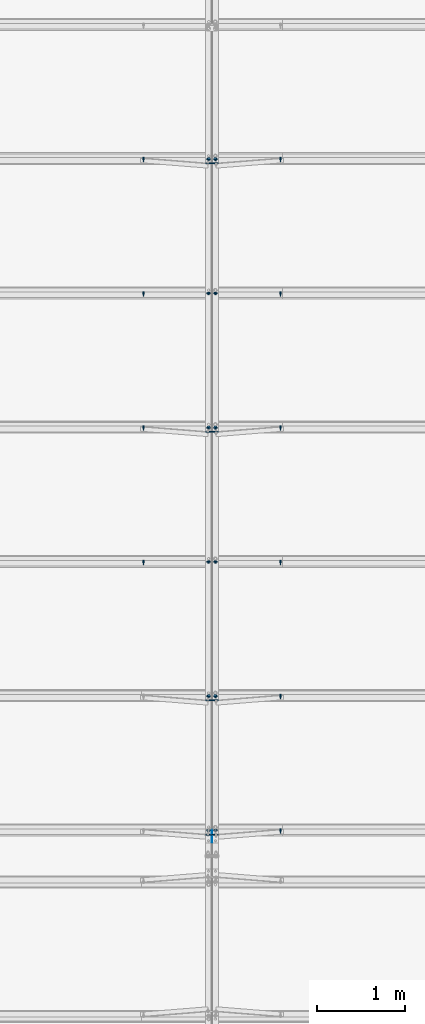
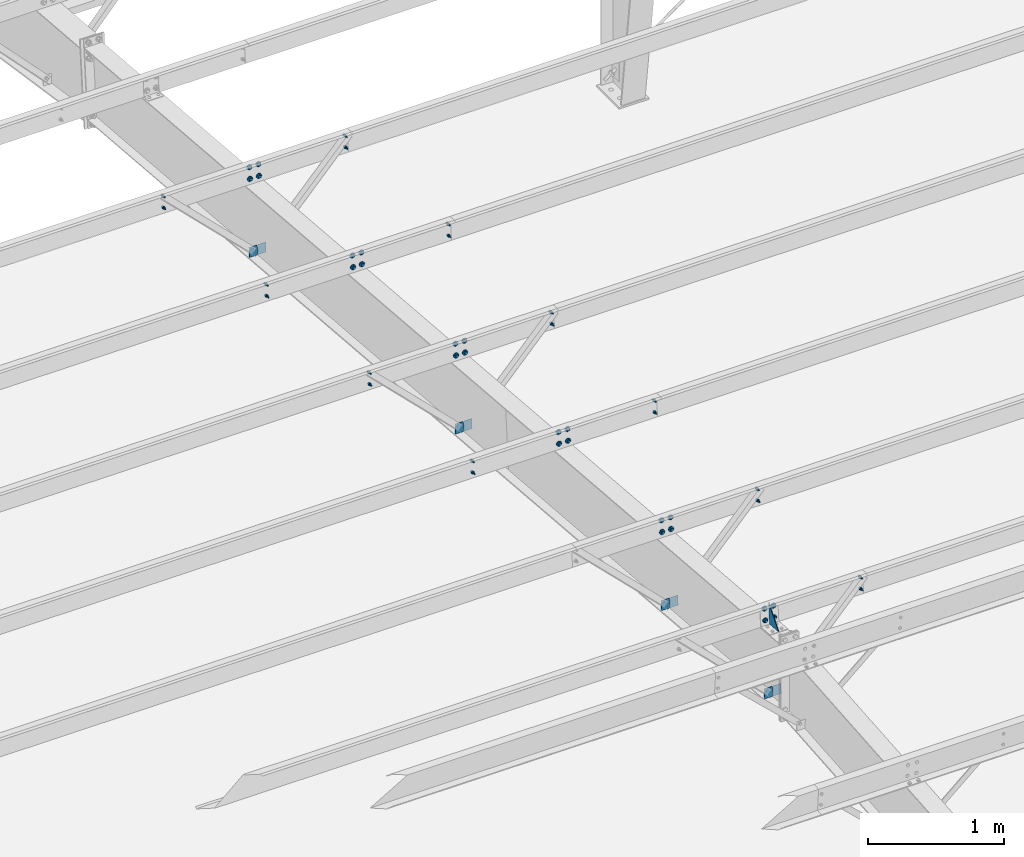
# One storey, part 94 of 185: 22 mechanical fasteners, 9 discrete accessories, 14 elements without a shape of their own.
"""IFC2X3 building model written with IfcOpenShell, lengths in millimetres."""

from ifc_helpers import new_model, si_unit, frame, origin_with_axes, origin_2d_with_axis, place, context, subcontext, project, spatial, polyline, rectangle, circle, outline, extrude, source, transform, mapped, material, type_object, element, aggregate, save


model = new_model("IFC2X3")

# Units and contexts
model_context = context("Model", 3, precision=1e-05, world=origin_with_axes())
body_context = subcontext(model_context, "Body", "Model", "MODEL_VIEW")
ifc_project = project(units=[si_unit("LENGTHUNIT", "METRE", prefix="MILLI"), si_unit("AREAUNIT", "SQUARE_METRE"), si_unit("VOLUMEUNIT", "CUBIC_METRE"), si_unit("MASSUNIT", "GRAM", prefix="KILO"), si_unit("TIMEUNIT", "SECOND"), si_unit("PLANEANGLEUNIT", "RADIAN"), si_unit("SOLIDANGLEUNIT", "STERADIAN"), si_unit("THERMODYNAMICTEMPERATUREUNIT", "DEGREE_CELSIUS"), si_unit("LUMINOUSINTENSITYUNIT", "LUMEN")], contexts=[model_context])

# Site, building, storey
site_placement = place(None, origin_with_axes())
site = spatial("IfcSite", under=ifc_project, at=site_placement, Name="Undefined", CompositionType="ELEMENT")
building_placement = place(site_placement, origin_with_axes())
building = spatial("IfcBuilding", under=site, at=building_placement, Name="Undefined", CompositionType="ELEMENT")
storey_placement = place(building_placement, origin_with_axes())
storey = spatial("IfcBuildingStorey", under=building, at=storey_placement, Name="Undefined", CompositionType="ELEMENT", Elevation=0.0)

# Assembly, mechanical fastener
assembly_1_placement = place(storey_placement, origin_with_axes())
assembly_1 = element("IfcElementAssembly", 1, at=assembly_1_placement, inside=storey, Name="Steel Assembly", AssemblyPlace="NOTDEFINED", PredefinedType="RIGID_FRAME")
ifc_material_1 = material(Name="Undefined")
discrete_accessory_type_1 = type_object("IfcDiscreteAccessoryType", Name="Bolt assembly")
shared_shape_1 = source(origin_with_axes(), body_context, "Body", "SweptSolid", [
    extrude(circle(Radius=7.14374971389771, at=origin_2d_with_axis()), frame((0.0, -1.59000001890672, 0.0), z_axis=(0.0, 1.0, 0.0), x_axis=(1.0, 0.0, 0.0)), (0.0, 0.0, 1.0), 3.3),
    extrude(circle(Radius=13.4937496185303, at=origin_2d_with_axis()), frame((0.0, -5.5587500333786, 0.0), z_axis=(0.0, 1.0, 0.0), x_axis=(1.0, 0.0, 0.0)), (0.0, 0.0, 1.0), 4.0),
    extrude(circle(Radius=22.2250003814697, at=origin_2d_with_axis()), frame((0.0, 1.5900000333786, 0.0), z_axis=(0.0, 1.0, 0.0), x_axis=(1.0, 0.0, 0.0)), (0.0, 0.0, 1.0), 7.9),
    extrude(outline(polyline([(12.8316099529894, 0.0), (6.4158049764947, 11.1125001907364), (-6.4158049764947, 11.1125001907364), (-12.8316099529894, 0.0), (-6.4158049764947, -11.1125001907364), (6.4158049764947, -11.1125001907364), (12.8316099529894, 0.0)])), frame((0.0, 9.5275000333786, 0.0), z_axis=(0.0, 1.0, 0.0), x_axis=(1.0, 0.0, 0.0)), (0.0, 0.0, 1.0), 12.3),
])
mechanical_fastener_1_placement = place(assembly_1_placement, frame((22440.9, 23895.20669004, 6720.75669347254), z_axis=(-1.0, 0.0, 0.0), x_axis=(0.0, -0.0830454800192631, -0.996545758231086)))
mechanical_fastener_1 = element("IfcMechanicalFastener", 2, at=mechanical_fastener_1_placement, type_object=discrete_accessory_type_1, material=ifc_material_1, Name="Bolt assembly", NominalDiameter=12.6999998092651, NominalLength=38.0999984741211, context=body_context, shape_type="MappedRepresentation", body=[
    mapped(shared_shape_1, transform((0.0, 0.0, 0.0))),
    mapped(shared_shape_1, transform((101.599998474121, 0.0, 0.0))),
])
aggregate(assembly_1, [mechanical_fastener_1])

assembly_2_placement = place(storey_placement, origin_with_axes())
assembly_2 = element("IfcElementAssembly", 3, at=assembly_2_placement, inside=storey, Name="Steel Assembly", AssemblyPlace="NOTDEFINED", PredefinedType="RIGID_FRAME")
mechanical_fastener_2_placement = place(assembly_2_placement, frame((22517.1, 23895.20669004, 6720.75669347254), z_axis=(-1.0, 0.0, 0.0), x_axis=(0.0, -0.0830454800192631, -0.996545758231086)))
mechanical_fastener_2 = element("IfcMechanicalFastener", 4, at=mechanical_fastener_2_placement, type_object=discrete_accessory_type_1, material=ifc_material_1, Name="Bolt assembly", NominalDiameter=12.6999998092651, NominalLength=38.0999984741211, context=body_context, shape_type="MappedRepresentation", body=[
    mapped(shared_shape_1, transform((0.0, 0.0, 0.0))),
    mapped(shared_shape_1, transform((101.599998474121, 0.0, 0.0))),
])

assembly_3_placement = place(storey_placement, origin_with_axes())
assembly_3 = element("IfcElementAssembly", 5, at=assembly_3_placement, inside=storey, Name="Steel Assembly", AssemblyPlace="NOTDEFINED", PredefinedType="RIGID_FRAME")
mechanical_fastener_3_placement = place(assembly_3_placement, frame((22440.9, 22376.4709544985, 6847.31800501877), z_axis=(-1.0, 0.0, 0.0), x_axis=(0.0, -0.0830454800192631, -0.996545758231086)))
mechanical_fastener_3 = element("IfcMechanicalFastener", 6, at=mechanical_fastener_3_placement, type_object=discrete_accessory_type_1, material=ifc_material_1, Name="Bolt assembly", NominalDiameter=12.6999998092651, NominalLength=38.0999984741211, context=body_context, shape_type="MappedRepresentation", body=[
    mapped(shared_shape_1, transform((0.0, 0.0, 0.0))),
    mapped(shared_shape_1, transform((101.599998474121, 0.0, 0.0))),
])
aggregate(assembly_3, [mechanical_fastener_3])

assembly_4_placement = place(storey_placement, origin_with_axes())
assembly_4 = element("IfcElementAssembly", 7, at=assembly_4_placement, inside=storey, Name="Steel Assembly", AssemblyPlace="NOTDEFINED", PredefinedType="RIGID_FRAME")
mechanical_fastener_4_placement = place(assembly_4_placement, frame((22517.1, 22376.4709544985, 6847.31800501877), z_axis=(-1.0, 0.0, 0.0), x_axis=(0.0, -0.0830454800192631, -0.996545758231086)))
mechanical_fastener_4 = element("IfcMechanicalFastener", 8, at=mechanical_fastener_4_placement, type_object=discrete_accessory_type_1, material=ifc_material_1, Name="Bolt assembly", NominalDiameter=12.6999998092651, NominalLength=38.0999984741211, context=body_context, shape_type="MappedRepresentation", body=[
    mapped(shared_shape_1, transform((0.0, 0.0, 0.0))),
    mapped(shared_shape_1, transform((101.599998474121, 0.0, 0.0))),
])

assembly_5_placement = place(storey_placement, origin_with_axes())
assembly_5 = element("IfcElementAssembly", 9, at=assembly_5_placement, inside=storey, Name="Steel Assembly", AssemblyPlace="NOTDEFINED", PredefinedType="RIGID_FRAME")
mechanical_fastener_5_placement = place(assembly_5_placement, frame((22440.9, 20857.735218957, 6973.87931656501), z_axis=(-1.0, 0.0, 0.0), x_axis=(0.0, -0.0830454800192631, -0.996545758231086)))
mechanical_fastener_5 = element("IfcMechanicalFastener", 10, at=mechanical_fastener_5_placement, type_object=discrete_accessory_type_1, material=ifc_material_1, Name="Bolt assembly", NominalDiameter=12.6999998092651, NominalLength=38.0999984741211, context=body_context, shape_type="MappedRepresentation", body=[
    mapped(shared_shape_1, transform((0.0, 0.0, 0.0))),
    mapped(shared_shape_1, transform((101.599998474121, 0.0, 0.0))),
])
aggregate(assembly_5, [mechanical_fastener_5])

assembly_6_placement = place(storey_placement, origin_with_axes())
assembly_6 = element("IfcElementAssembly", 11, at=assembly_6_placement, inside=storey, Name="Steel Assembly", AssemblyPlace="NOTDEFINED", PredefinedType="RIGID_FRAME")
mechanical_fastener_6_placement = place(assembly_6_placement, frame((22517.1, 20857.735218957, 6973.87931656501), z_axis=(-1.0, 0.0, 0.0), x_axis=(0.0, -0.0830454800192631, -0.996545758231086)))
mechanical_fastener_6 = element("IfcMechanicalFastener", 12, at=mechanical_fastener_6_placement, type_object=discrete_accessory_type_1, material=ifc_material_1, Name="Bolt assembly", NominalDiameter=12.6999998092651, NominalLength=38.0999984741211, context=body_context, shape_type="MappedRepresentation", body=[
    mapped(shared_shape_1, transform((0.0, 0.0, 0.0))),
    mapped(shared_shape_1, transform((101.599998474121, 0.0, 0.0))),
])

assembly_7_placement = place(storey_placement, origin_with_axes())
assembly_7 = element("IfcElementAssembly", 13, at=assembly_7_placement, inside=storey, Name="Steel Assembly", AssemblyPlace="NOTDEFINED", PredefinedType="RIGID_FRAME")
mechanical_fastener_7_placement = place(assembly_7_placement, frame((22440.9, 19338.9994834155, 7100.44062811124), z_axis=(-1.0, 0.0, 0.0), x_axis=(0.0, -0.0830454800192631, -0.996545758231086)))
mechanical_fastener_7 = element("IfcMechanicalFastener", 14, at=mechanical_fastener_7_placement, type_object=discrete_accessory_type_1, material=ifc_material_1, Name="Bolt assembly", NominalDiameter=12.6999998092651, NominalLength=38.0999984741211, context=body_context, shape_type="MappedRepresentation", body=[
    mapped(shared_shape_1, transform((0.0, 0.0, 0.0))),
    mapped(shared_shape_1, transform((101.599998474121, 0.0, 0.0))),
])
aggregate(assembly_7, [mechanical_fastener_7])

assembly_8_placement = place(storey_placement, origin_with_axes())
assembly_8 = element("IfcElementAssembly", 15, at=assembly_8_placement, inside=storey, Name="Steel Assembly", AssemblyPlace="NOTDEFINED", PredefinedType="RIGID_FRAME")
mechanical_fastener_8_placement = place(assembly_8_placement, frame((22517.1, 19338.9994834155, 7100.44062811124), z_axis=(-1.0, 0.0, 0.0), x_axis=(0.0, -0.0830454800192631, -0.996545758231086)))
mechanical_fastener_8 = element("IfcMechanicalFastener", 16, at=mechanical_fastener_8_placement, type_object=discrete_accessory_type_1, material=ifc_material_1, Name="Bolt assembly", NominalDiameter=12.6999998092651, NominalLength=38.0999984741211, context=body_context, shape_type="MappedRepresentation", body=[
    mapped(shared_shape_1, transform((0.0, 0.0, 0.0))),
    mapped(shared_shape_1, transform((101.599998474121, 0.0, 0.0))),
])

assembly_9_placement = place(storey_placement, origin_with_axes())
assembly_9 = element("IfcElementAssembly", 17, at=assembly_9_placement, inside=storey, Name="Steel Assembly", AssemblyPlace="NOTDEFINED", PredefinedType="RIGID_FRAME")
mechanical_fastener_9_placement = place(assembly_9_placement, frame((22440.9, 17820.2637478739, 7227.00193965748), z_axis=(-1.0, 0.0, 0.0), x_axis=(0.0, -0.0830454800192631, -0.996545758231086)))
mechanical_fastener_9 = element("IfcMechanicalFastener", 18, at=mechanical_fastener_9_placement, type_object=discrete_accessory_type_1, material=ifc_material_1, Name="Bolt assembly", NominalDiameter=12.6999998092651, NominalLength=38.0999984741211, context=body_context, shape_type="MappedRepresentation", body=[
    mapped(shared_shape_1, transform((0.0, 0.0, 0.0))),
    mapped(shared_shape_1, transform((101.599998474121, 0.0, 0.0))),
])
aggregate(assembly_9, [mechanical_fastener_9])

assembly_10_placement = place(storey_placement, origin_with_axes())
assembly_10 = element("IfcElementAssembly", 19, at=assembly_10_placement, inside=storey, Name="Steel Assembly", AssemblyPlace="NOTDEFINED", PredefinedType="RIGID_FRAME")
mechanical_fastener_10_placement = place(assembly_10_placement, frame((22517.1, 17820.2637478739, 7227.00193965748), z_axis=(-1.0, 0.0, 0.0), x_axis=(0.0, -0.0830454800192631, -0.996545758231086)))
mechanical_fastener_10 = element("IfcMechanicalFastener", 20, at=mechanical_fastener_10_placement, type_object=discrete_accessory_type_1, material=ifc_material_1, Name="Bolt assembly", NominalDiameter=12.6999998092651, NominalLength=38.0999984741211, context=body_context, shape_type="MappedRepresentation", body=[
    mapped(shared_shape_1, transform((0.0, 0.0, 0.0))),
    mapped(shared_shape_1, transform((101.599998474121, 0.0, 0.0))),
])

assembly_11_placement = place(storey_placement, origin_with_axes())
assembly_11 = element("IfcElementAssembly", 21, at=assembly_11_placement, inside=storey, Name="Steel Assembly", AssemblyPlace="NOTDEFINED", PredefinedType="RIGID_FRAME")
mechanical_fastener_11_placement = place(assembly_11_placement, frame((22440.9, 16301.5280123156, 7353.56325121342), z_axis=(-1.0, 0.0, 0.0), x_axis=(0.0, -0.0830454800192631, -0.996545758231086)))
mechanical_fastener_11 = element("IfcMechanicalFastener", 22, at=mechanical_fastener_11_placement, type_object=discrete_accessory_type_1, material=ifc_material_1, Name="Bolt assembly", NominalDiameter=12.6999998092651, NominalLength=38.0999984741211, context=body_context, shape_type="MappedRepresentation", body=[
    mapped(shared_shape_1, transform((0.0, 0.0, 0.0))),
    mapped(shared_shape_1, transform((101.599998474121, 0.0, 0.0))),
])
aggregate(assembly_11, [mechanical_fastener_11])

assembly_12_placement = place(storey_placement, origin_with_axes())
assembly_12 = element("IfcElementAssembly", 23, at=assembly_12_placement, inside=storey, Name="Steel Assembly", AssemblyPlace="NOTDEFINED", PredefinedType="RIGID_FRAME")
mechanical_fastener_12_placement = place(assembly_12_placement, frame((22517.1, 16301.5280123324, 7353.56325120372), z_axis=(-1.0, 0.0, 0.0), x_axis=(0.0, -0.0830454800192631, -0.996545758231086)))
mechanical_fastener_12 = element("IfcMechanicalFastener", 24, at=mechanical_fastener_12_placement, type_object=discrete_accessory_type_1, material=ifc_material_1, Name="Bolt assembly", NominalDiameter=12.6999998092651, NominalLength=38.0999984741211, context=body_context, shape_type="MappedRepresentation", body=[
    mapped(shared_shape_1, transform((0.0, 0.0, 0.0))),
    mapped(shared_shape_1, transform((101.599998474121, 0.0, 0.0))),
])

# Assembly, discrete accessory
assembly_13_placement = place(storey_placement, origin_with_axes())
assembly_13 = element("IfcElementAssembly", 25, at=assembly_13_placement, inside=storey, Name="Steel Assembly", AssemblyPlace="NOTDEFINED", PredefinedType="RIGID_FRAME")
ifc_material_2 = material(Name="STEEL/55")
discrete_accessory_type_2 = type_object("IfcDiscreteAccessoryType", Name="PLATE")
discrete_accessory_1_placement = place(assembly_13_placement, frame((22479.0, 16150.181777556, 7219.61919675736), z_axis=(1.0, 0.0, 0.0), x_axis=(0.0, 0.996545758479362, -0.0830454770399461)))
discrete_accessory_1 = element("IfcDiscreteAccessory", 26, at=discrete_accessory_1_placement, type_object=discrete_accessory_type_2, material=ifc_material_2, Name="PLATE", ObjectType="FL1/4\"X5 1/4\"", context=body_context, shape_type="SweptSolid", body=[
    extrude(outline(polyline([(0.0, 0.0), (133.350006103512, 3.70164343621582e-10), (133.350006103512, 190.500000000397), (0.0, 0.0)])), frame((0.0, 0.0, -3.175), z_axis=(0.0, 0.0, 1.0), x_axis=(1.0, 0.0, 0.0)), (0.0, 0.0, 1.0), 6.4),
])
aggregate(assembly_13, [discrete_accessory_1])

# Assembly, discrete accessories
assembly_14_placement = place(storey_placement, origin_with_axes())
assembly_14 = element("IfcElementAssembly", 27, at=assembly_14_placement, inside=storey, Name="Steel Assembly", AssemblyPlace="NOTDEFINED", PredefinedType="RIGID_FRAME")
discrete_accessory_type_3 = type_object("IfcDiscreteAccessoryType", Name="FLANGE BRACE FLIP")
discrete_accessory_2_placement = place(assembly_14_placement, frame((22477.29185, 23836.5274434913, 5996.03869125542), z_axis=(0.0, 0.0830454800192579, 0.996545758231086), x_axis=(-1.0, 0.0, 0.0)))
discrete_accessory_2 = element("IfcDiscreteAccessory", 28, at=discrete_accessory_2_placement, type_object=discrete_accessory_type_3, material=ifc_material_2, Name="FLANGE BRACE FLIP", ObjectType="PL1/8\"X2 3/4\"", context=body_context, shape_type="SweptSolid", body=[
    extrude(rectangle(XDim=3.416, YDim=85.725, at=origin_2d_with_axis()), frame((69.8499999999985, 0.0, 0.0), z_axis=(-1.0, 0.0, 0.0), x_axis=(0.0, -1.0, 0.0)), (0.0, 0.0, 1.0), 69.8),
])
discrete_accessory_3_placement = place(assembly_14_placement, frame((22480.70815, 23836.5274434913, 5996.03869125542), z_axis=(0.0, 0.0830454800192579, 0.996545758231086), x_axis=(1.0, 0.0, 0.0)))
discrete_accessory_3 = element("IfcDiscreteAccessory", 29, at=discrete_accessory_3_placement, type_object=discrete_accessory_type_3, material=ifc_material_2, Name="FLANGE BRACE FLIP", ObjectType="PL1/8\"X2 3/4\"", context=body_context, shape_type="SweptSolid", body=[
    extrude(rectangle(XDim=3.416, YDim=85.725, at=origin_2d_with_axis()), frame((69.8499999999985, 0.0, 0.0), z_axis=(-1.0, 0.0, 0.0), x_axis=(0.0, -1.0, 0.0)), (0.0, 0.0, 1.0), 69.8),
])
discrete_accessory_4_placement = place(assembly_14_placement, frame((22477.29185, 16242.8487656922, 6628.84524772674), z_axis=(0.0, 0.0830454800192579, 0.996545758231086), x_axis=(-1.0, 0.0, 0.0)))
discrete_accessory_4 = element("IfcDiscreteAccessory", 30, at=discrete_accessory_4_placement, type_object=discrete_accessory_type_3, material=ifc_material_2, Name="FLANGE BRACE FLIP", ObjectType="PL1/8\"X2 3/4\"", context=body_context, shape_type="SweptSolid", body=[
    extrude(rectangle(XDim=3.416, YDim=85.725, at=origin_2d_with_axis()), frame((69.8499999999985, 0.0, 0.0), z_axis=(-1.0, 0.0, 0.0), x_axis=(0.0, -1.0, 0.0)), (0.0, 0.0, 1.0), 69.8),
])
discrete_accessory_5_placement = place(assembly_14_placement, frame((22480.70815, 16242.8487656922, 6628.84524772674), z_axis=(0.0, 0.0830454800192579, 0.996545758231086), x_axis=(1.0, 0.0, 0.0)))
discrete_accessory_5 = element("IfcDiscreteAccessory", 31, at=discrete_accessory_5_placement, type_object=discrete_accessory_type_3, material=ifc_material_2, Name="FLANGE BRACE FLIP", ObjectType="PL1/8\"X2 3/4\"", context=body_context, shape_type="SweptSolid", body=[
    extrude(rectangle(XDim=3.416, YDim=85.725, at=origin_2d_with_axis()), frame((69.8499999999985, 0.0, 0.0), z_axis=(-1.0, 0.0, 0.0), x_axis=(0.0, -1.0, 0.0)), (0.0, 0.0, 1.0), 69.8),
])
discrete_accessory_6_placement = place(assembly_14_placement, frame((22477.29185, 17761.584501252, 6502.28393643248), z_axis=(0.0, 0.0830454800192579, 0.996545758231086), x_axis=(-1.0, 0.0, 0.0)))
discrete_accessory_6 = element("IfcDiscreteAccessory", 32, at=discrete_accessory_6_placement, type_object=discrete_accessory_type_3, material=ifc_material_2, Name="FLANGE BRACE FLIP", ObjectType="PL1/8\"X2 3/4\"", context=body_context, shape_type="SweptSolid", body=[
    extrude(rectangle(XDim=3.416, YDim=85.725, at=origin_2d_with_axis()), frame((69.8499999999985, 0.0, 0.0), z_axis=(-1.0, 0.0, 0.0), x_axis=(0.0, -1.0, 0.0)), (0.0, 0.0, 1.0), 69.8),
])
discrete_accessory_7_placement = place(assembly_14_placement, frame((22480.70815, 17761.584501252, 6502.28393643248), z_axis=(0.0, 0.0830454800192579, 0.996545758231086), x_axis=(1.0, 0.0, 0.0)))
discrete_accessory_7 = element("IfcDiscreteAccessory", 33, at=discrete_accessory_7_placement, type_object=discrete_accessory_type_3, material=ifc_material_2, Name="FLANGE BRACE FLIP", ObjectType="PL1/8\"X2 3/4\"", context=body_context, shape_type="SweptSolid", body=[
    extrude(rectangle(XDim=3.416, YDim=85.725, at=origin_2d_with_axis()), frame((69.8499999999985, 0.0, 0.0), z_axis=(-1.0, 0.0, 0.0), x_axis=(0.0, -1.0, 0.0)), (0.0, 0.0, 1.0), 69.8),
])
discrete_accessory_8_placement = place(assembly_14_placement, frame((22477.29185, 20799.0559723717, 6249.16131384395), z_axis=(0.0, 0.0830454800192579, 0.996545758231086), x_axis=(-1.0, 0.0, 0.0)))
discrete_accessory_8 = element("IfcDiscreteAccessory", 34, at=discrete_accessory_8_placement, type_object=discrete_accessory_type_3, material=ifc_material_2, Name="FLANGE BRACE FLIP", ObjectType="PL1/8\"X2 3/4\"", context=body_context, shape_type="SweptSolid", body=[
    extrude(rectangle(XDim=3.416, YDim=85.725, at=origin_2d_with_axis()), frame((69.8499999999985, 0.0, 0.0), z_axis=(-1.0, 0.0, 0.0), x_axis=(0.0, -1.0, 0.0)), (0.0, 0.0, 1.0), 69.8),
])
discrete_accessory_9_placement = place(assembly_14_placement, frame((22480.70815, 20799.0559723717, 6249.16131384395), z_axis=(0.0, 0.0830454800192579, 0.996545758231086), x_axis=(1.0, 0.0, 0.0)))
discrete_accessory_9 = element("IfcDiscreteAccessory", 35, at=discrete_accessory_9_placement, type_object=discrete_accessory_type_3, material=ifc_material_2, Name="FLANGE BRACE FLIP", ObjectType="PL1/8\"X2 3/4\"", context=body_context, shape_type="SweptSolid", body=[
    extrude(rectangle(XDim=3.416, YDim=85.725, at=origin_2d_with_axis()), frame((69.8499999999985, 0.0, 0.0), z_axis=(-1.0, 0.0, 0.0), x_axis=(0.0, -1.0, 0.0)), (0.0, 0.0, 1.0), 69.8),
])
aggregate(assembly_14, [discrete_accessory_2, discrete_accessory_3, discrete_accessory_4, discrete_accessory_5, discrete_accessory_6, discrete_accessory_7, discrete_accessory_8, discrete_accessory_9])

# Mechanical fastener
shared_shape_2 = source(origin_with_axes(), body_context, "Body", "SweptSolid", [
    extrude(circle(Radius=7.14374971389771, at=origin_2d_with_axis()), frame((0.0, -1.4900000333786, 0.0), z_axis=(0.0, 1.0, 0.0), x_axis=(1.0, 0.0, 0.0)), (0.0, 0.0, 1.0), 3.2),
    extrude(circle(Radius=7.14374971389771, at=origin_2d_with_axis()), frame((0.0, -1.4900000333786, 0.0), z_axis=(0.0, 1.0, 0.0), x_axis=(1.0, 0.0, 0.0)), (0.0, 0.0, 1.0), 3.2),
    extrude(outline(polyline([(10.9985221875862, 0.0), (5.4992610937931, 9.52499961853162), (-5.4992610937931, 9.52499961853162), (-10.9985221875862, 0.0), (-5.4992610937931, -9.52499961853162), (5.4992610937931, -9.52499961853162), (10.9985221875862, 0.0)])), frame((0.0, -11.1149996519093, 0.0), z_axis=(0.0, 1.0, 0.0), x_axis=(1.0, 0.0, 0.0)), (0.0, 0.0, 1.0), 9.5),
    extrude(circle(Radius=6.34999990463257, at=origin_2d_with_axis()), frame((0.0, -1.59000001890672, 0.0), z_axis=(0.0, 1.0, 0.0), x_axis=(1.0, 0.0, 0.0)), (0.0, 0.0, 1.0), 38.1),
    extrude(outline(polyline([(12.8316099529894, 0.0), (6.4158049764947, 11.1125001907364), (-6.4158049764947, 11.1125001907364), (-12.8316099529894, 0.0), (-6.4158049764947, -11.1125001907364), (6.4158049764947, -11.1125001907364), (12.8316099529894, 0.0)])), frame((0.0, 1.5900000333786, 0.0), z_axis=(0.0, 1.0, 0.0), x_axis=(1.0, 0.0, 0.0)), (0.0, 0.0, 1.0), 12.3),
])
mechanical_fastener_13_placement = place(assembly_2_placement, frame((21704.3, 23895.2066900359, 6720.75669347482), z_axis=(-1.0, 0.0, 0.0), x_axis=(0.0, -0.0830454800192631, -0.996545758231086)))
mechanical_fastener_13 = element("IfcMechanicalFastener", 36, at=mechanical_fastener_13_placement, type_object=discrete_accessory_type_1, material=ifc_material_1, Name="Bolt assembly", NominalDiameter=12.6999998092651, NominalLength=38.0999984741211, context=body_context, shape_type="MappedRepresentation", body=[
    mapped(shared_shape_2, transform((0.0, 0.0, 0.0))),
    mapped(shared_shape_2, transform((101.599998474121, 0.0, 0.0))),
])

mechanical_fastener_14_placement = place(assembly_2_placement, frame((23253.7, 23895.2066900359, 6720.75669347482), z_axis=(-1.0, 0.0, 0.0), x_axis=(0.0, -0.0830454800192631, -0.996545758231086)))
mechanical_fastener_14 = element("IfcMechanicalFastener", 37, at=mechanical_fastener_14_placement, type_object=discrete_accessory_type_1, material=ifc_material_1, Name="Bolt assembly", NominalDiameter=12.6999998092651, NominalLength=38.0999984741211, context=body_context, shape_type="MappedRepresentation", body=[
    mapped(shared_shape_2, transform((0.0, 0.0, 0.0))),
    mapped(shared_shape_2, transform((101.599998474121, 0.0, 0.0))),
])

aggregate(assembly_2, [mechanical_fastener_13, mechanical_fastener_14, mechanical_fastener_2])

mechanical_fastener_15_placement = place(assembly_12_placement, frame((23253.7, 16301.5280123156, 7353.56325121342), z_axis=(-1.0, 0.0, 0.0), x_axis=(0.0, -0.0830454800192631, -0.996545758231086)))
mechanical_fastener_15 = element("IfcMechanicalFastener", 38, at=mechanical_fastener_15_placement, type_object=discrete_accessory_type_1, material=ifc_material_1, Name="Bolt assembly", NominalDiameter=12.6999998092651, NominalLength=38.0999984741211, context=body_context, shape_type="MappedRepresentation", body=[
    mapped(shared_shape_2, transform((0.0, 0.0, 0.0))),
    mapped(shared_shape_2, transform((101.599998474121, 0.0, 0.0))),
])

aggregate(assembly_12, [mechanical_fastener_15, mechanical_fastener_12])

mechanical_fastener_16_placement = place(assembly_10_placement, frame((23253.7, 17820.2637478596, 7227.0019396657), z_axis=(-1.0, 0.0, 0.0), x_axis=(0.0, -0.0830454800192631, -0.996545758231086)))
mechanical_fastener_16 = element("IfcMechanicalFastener", 39, at=mechanical_fastener_16_placement, type_object=discrete_accessory_type_1, material=ifc_material_1, Name="Bolt assembly", NominalDiameter=12.6999998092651, NominalLength=38.0999984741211, context=body_context, shape_type="MappedRepresentation", body=[
    mapped(shared_shape_2, transform((0.0, 0.0, 0.0))),
    mapped(shared_shape_2, transform((101.599998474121, 0.0, 0.0))),
])

aggregate(assembly_10, [mechanical_fastener_16, mechanical_fastener_10])

mechanical_fastener_17_placement = place(assembly_8_placement, frame((21704.3, 19338.9994834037, 7100.44062811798), z_axis=(-1.0, 0.0, 0.0), x_axis=(0.0, -0.0830454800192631, -0.996545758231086)))
mechanical_fastener_17 = element("IfcMechanicalFastener", 40, at=mechanical_fastener_17_placement, type_object=discrete_accessory_type_1, material=ifc_material_1, Name="Bolt assembly", NominalDiameter=12.6999998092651, NominalLength=38.0999984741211, context=body_context, shape_type="MappedRepresentation", body=[
    mapped(shared_shape_2, transform((0.0, 0.0, 0.0))),
    mapped(shared_shape_2, transform((101.599998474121, 0.0, 0.0))),
])

mechanical_fastener_18_placement = place(assembly_8_placement, frame((23253.7, 19338.9994834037, 7100.44062811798), z_axis=(-1.0, 0.0, 0.0), x_axis=(0.0, -0.0830454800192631, -0.996545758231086)))
mechanical_fastener_18 = element("IfcMechanicalFastener", 41, at=mechanical_fastener_18_placement, type_object=discrete_accessory_type_1, material=ifc_material_1, Name="Bolt assembly", NominalDiameter=12.6999998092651, NominalLength=38.0999984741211, context=body_context, shape_type="MappedRepresentation", body=[
    mapped(shared_shape_2, transform((0.0, 0.0, 0.0))),
    mapped(shared_shape_2, transform((101.599998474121, 0.0, 0.0))),
])

aggregate(assembly_8, [mechanical_fastener_17, mechanical_fastener_18, mechanical_fastener_8])

mechanical_fastener_19_placement = place(assembly_4_placement, frame((21704.3, 22376.4709544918, 6847.31800502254), z_axis=(-1.0, 0.0, 0.0), x_axis=(0.0, -0.0830454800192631, -0.996545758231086)))
mechanical_fastener_19 = element("IfcMechanicalFastener", 42, at=mechanical_fastener_19_placement, type_object=discrete_accessory_type_1, material=ifc_material_1, Name="Bolt assembly", NominalDiameter=12.6999998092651, NominalLength=38.0999984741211, context=body_context, shape_type="MappedRepresentation", body=[
    mapped(shared_shape_2, transform((0.0, 0.0, 0.0))),
    mapped(shared_shape_2, transform((101.599998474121, 0.0, 0.0))),
])

mechanical_fastener_20_placement = place(assembly_4_placement, frame((23253.7, 22376.4709544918, 6847.31800502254), z_axis=(-1.0, 0.0, 0.0), x_axis=(0.0, -0.0830454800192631, -0.996545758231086)))
mechanical_fastener_20 = element("IfcMechanicalFastener", 43, at=mechanical_fastener_20_placement, type_object=discrete_accessory_type_1, material=ifc_material_1, Name="Bolt assembly", NominalDiameter=12.6999998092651, NominalLength=38.0999984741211, context=body_context, shape_type="MappedRepresentation", body=[
    mapped(shared_shape_2, transform((0.0, 0.0, 0.0))),
    mapped(shared_shape_2, transform((101.599998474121, 0.0, 0.0))),
])

aggregate(assembly_4, [mechanical_fastener_19, mechanical_fastener_20, mechanical_fastener_4])

mechanical_fastener_21_placement = place(assembly_6_placement, frame((21704.3, 20857.7352189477, 6973.87931657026), z_axis=(-1.0, 0.0, 0.0), x_axis=(0.0, -0.0830454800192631, -0.996545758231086)))
mechanical_fastener_21 = element("IfcMechanicalFastener", 44, at=mechanical_fastener_21_placement, type_object=discrete_accessory_type_1, material=ifc_material_1, Name="Bolt assembly", NominalDiameter=12.6999998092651, NominalLength=38.0999984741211, context=body_context, shape_type="MappedRepresentation", body=[
    mapped(shared_shape_2, transform((0.0, 0.0, 0.0))),
    mapped(shared_shape_2, transform((101.599998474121, 0.0, 0.0))),
])

mechanical_fastener_22_placement = place(assembly_6_placement, frame((23253.7, 20857.7352189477, 6973.87931657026), z_axis=(-1.0, 0.0, 0.0), x_axis=(0.0, -0.0830454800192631, -0.996545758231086)))
mechanical_fastener_22 = element("IfcMechanicalFastener", 45, at=mechanical_fastener_22_placement, type_object=discrete_accessory_type_1, material=ifc_material_1, Name="Bolt assembly", NominalDiameter=12.6999998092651, NominalLength=38.0999984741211, context=body_context, shape_type="MappedRepresentation", body=[
    mapped(shared_shape_2, transform((0.0, 0.0, 0.0))),
    mapped(shared_shape_2, transform((101.599998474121, 0.0, 0.0))),
])

aggregate(assembly_6, [mechanical_fastener_21, mechanical_fastener_22, mechanical_fastener_6])

save(model, "model.ifc")
